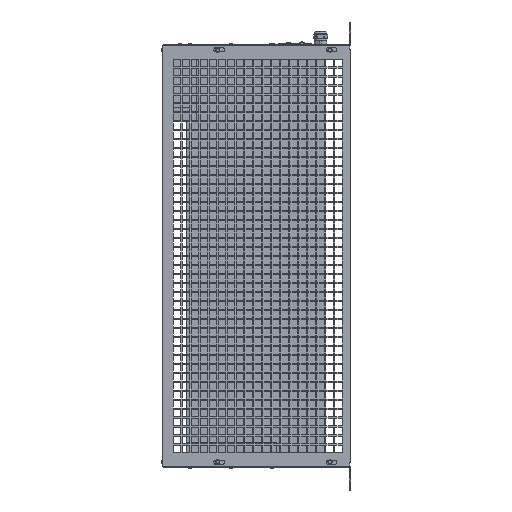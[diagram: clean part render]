
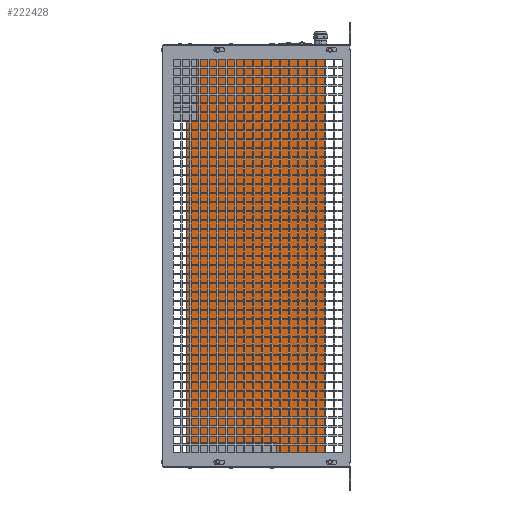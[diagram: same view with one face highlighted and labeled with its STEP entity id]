
A CAD part, left-side view. The second image highlights one B-rep face of the part: STEP entity #222428.
In plain terms, the highlighted planar face has unit normal (-1, 0, 0).
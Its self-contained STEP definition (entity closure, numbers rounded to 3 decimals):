
#5214=PLANE('',#233105);
#15209=FACE_OUTER_BOUND('',#27848,.T.);
#27848=EDGE_LOOP('',(#161087,#161088,#161089,#161090,#161091,#161092,#161093,
#161094,#161095,#161096,#161097,#161098,#161099,#161100));
#49900=LINE('',#314979,#79520);
#49925=LINE('',#315029,#79545);
#49929=LINE('',#315037,#79549);
#49938=LINE('',#315075,#79558);
#49948=LINE('',#315093,#79568);
#49949=LINE('',#315096,#79569);
#49957=LINE('',#315110,#79577);
#49958=LINE('',#315112,#79578);
#49959=LINE('',#315114,#79579);
#49960=LINE('',#315115,#79580);
#49961=LINE('',#315117,#79581);
#49962=LINE('',#315119,#79582);
#49963=LINE('',#315121,#79583);
#49964=LINE('',#315122,#79584);
#79520=VECTOR('',#254018,10.);
#79545=VECTOR('',#254055,10.);
#79549=VECTOR('',#254059,10.);
#79558=VECTOR('',#254104,10.);
#79568=VECTOR('',#254120,10.);
#79569=VECTOR('',#254123,10.);
#79577=VECTOR('',#254133,10.);
#79578=VECTOR('',#254134,10.);
#79579=VECTOR('',#254135,10.);
#79580=VECTOR('',#254136,10.);
#79581=VECTOR('',#254137,10.);
#79582=VECTOR('',#254138,10.);
#79583=VECTOR('',#254139,10.);
#79584=VECTOR('',#254140,10.);
#109972=VERTEX_POINT('',#314976);
#109973=VERTEX_POINT('',#314978);
#109991=VERTEX_POINT('',#315026);
#109992=VERTEX_POINT('',#315028);
#109995=VERTEX_POINT('',#315034);
#109996=VERTEX_POINT('',#315036);
#110007=VERTEX_POINT('',#315074);
#110012=VERTEX_POINT('',#315091);
#110013=VERTEX_POINT('',#315095);
#110019=VERTEX_POINT('',#315111);
#110020=VERTEX_POINT('',#315113);
#110021=VERTEX_POINT('',#315116);
#110022=VERTEX_POINT('',#315118);
#110023=VERTEX_POINT('',#315120);
#130269=EDGE_CURVE('',#109972,#109973,#49900,.T.);
#130294=EDGE_CURVE('',#109991,#109992,#49925,.T.);
#130298=EDGE_CURVE('',#109995,#109996,#49929,.T.);
#130315=EDGE_CURVE('',#110007,#109973,#49938,.T.);
#130325=EDGE_CURVE('',#110012,#110007,#49948,.T.);
#130326=EDGE_CURVE('',#110013,#110012,#49949,.T.);
#130334=EDGE_CURVE('',#109996,#109972,#49957,.T.);
#130335=EDGE_CURVE('',#110019,#109995,#49958,.T.);
#130336=EDGE_CURVE('',#110020,#110019,#49959,.T.);
#130337=EDGE_CURVE('',#109992,#110020,#49960,.T.);
#130338=EDGE_CURVE('',#110021,#109991,#49961,.T.);
#130339=EDGE_CURVE('',#110022,#110021,#49962,.T.);
#130340=EDGE_CURVE('',#110023,#110022,#49963,.T.);
#130341=EDGE_CURVE('',#110013,#110023,#49964,.T.);
#161087=ORIENTED_EDGE('',*,*,#130325,.T.);
#161088=ORIENTED_EDGE('',*,*,#130315,.T.);
#161089=ORIENTED_EDGE('',*,*,#130269,.F.);
#161090=ORIENTED_EDGE('',*,*,#130334,.F.);
#161091=ORIENTED_EDGE('',*,*,#130298,.F.);
#161092=ORIENTED_EDGE('',*,*,#130335,.F.);
#161093=ORIENTED_EDGE('',*,*,#130336,.F.);
#161094=ORIENTED_EDGE('',*,*,#130337,.F.);
#161095=ORIENTED_EDGE('',*,*,#130294,.F.);
#161096=ORIENTED_EDGE('',*,*,#130338,.F.);
#161097=ORIENTED_EDGE('',*,*,#130339,.F.);
#161098=ORIENTED_EDGE('',*,*,#130340,.F.);
#161099=ORIENTED_EDGE('',*,*,#130341,.F.);
#161100=ORIENTED_EDGE('',*,*,#130326,.T.);
#222428=ADVANCED_FACE('',(#15209),#5214,.F.);
#233105=AXIS2_PLACEMENT_3D('',#315109,#254131,#254132);
#254018=DIRECTION('',(0.,1.,0.));
#254055=DIRECTION('',(0.,-1.,0.));
#254059=DIRECTION('',(0.,-1.,0.));
#254104=DIRECTION('',(0.,0.,-1.));
#254120=DIRECTION('',(0.,-1.,0.));
#254123=DIRECTION('',(0.,0.,-1.));
#254131=DIRECTION('center_axis',(1.,0.,0.));
#254132=DIRECTION('ref_axis',(0.,0.,
1.));
#254133=DIRECTION('',(0.,0.,-1.));
#254134=DIRECTION('',(0.,0.,1.));
#254135=DIRECTION('',(0.,-1.,0.));
#254136=DIRECTION('',(0.,0.,-1.));
#254137=DIRECTION('',(0.,0.,1.));
#254138=DIRECTION('',(0.,-1.,0.));
#254139=DIRECTION('',(0.,0.,1.));
#254140=DIRECTION('',(0.,-1.,0.));
#314976=CARTESIAN_POINT('',(-182.428,25.059,-532.5));
#314978=CARTESIAN_POINT('',(-182.428,89.3,-532.5));
#314979=CARTESIAN_POINT('',(-182.428,117.,-532.5));
#315026=CARTESIAN_POINT('',(-182.428,196.3,7.5));
#315028=CARTESIAN_POINT('',(-182.428,62.5,7.5));
#315029=CARTESIAN_POINT('',(-182.428,117.,7.5));
#315034=CARTESIAN_POINT('',(-182.428,47.5,7.5));
#315036=CARTESIAN_POINT('',(-182.428,25.059,7.5));
#315037=CARTESIAN_POINT('',(-182.428,117.,7.5));
#315074=CARTESIAN_POINT('',(-182.428,89.3,-511.));
#315075=CARTESIAN_POINT('',(-182.428,89.3,-394.875));
#315091=CARTESIAN_POINT('',(-182.428,208.941,-511.));
#315093=CARTESIAN_POINT('',(-182.428,133.15,-511.));
#315095=CARTESIAN_POINT('',(-182.428,208.941,-83.318));
#315096=CARTESIAN_POINT('',(-182.428,208.941,-262.5));
#315109=CARTESIAN_POINT('Origin',(-182.428,117.,-262.5));
#315110=CARTESIAN_POINT('',(-182.428,25.059,-262.5));
#315111=CARTESIAN_POINT('',(-182.428,47.5,2.4));
#315112=CARTESIAN_POINT('',(-182.428,47.5,-126.025));
#315113=CARTESIAN_POINT('',(-182.428,62.5,2.4));
#315114=CARTESIAN_POINT('',(-182.428,86.,2.4));
#315115=CARTESIAN_POINT('',(-182.428,62.5,-126.025));
#315116=CARTESIAN_POINT('',(-182.428,196.3,-81.5));
#315117=CARTESIAN_POINT('',(-182.428,196.3,-147.));
#315118=CARTESIAN_POINT('',(-182.428,203.3,-81.5));
#315119=CARTESIAN_POINT('',(-182.428,164.15,-81.5));
#315120=CARTESIAN_POINT('',(-182.428,203.3,-83.318));
#315121=CARTESIAN_POINT('',(-182.428,203.3,-168.));
#315122=CARTESIAN_POINT('',(-182.428,166.9,-83.318));
